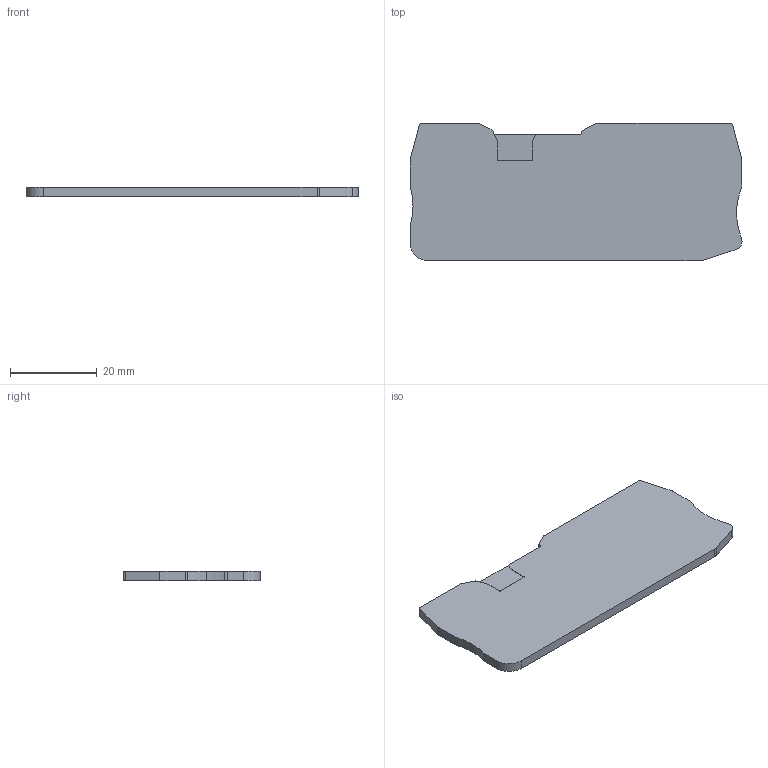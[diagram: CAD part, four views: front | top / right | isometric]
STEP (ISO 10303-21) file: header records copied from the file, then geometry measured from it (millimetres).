
FILE_DESCRIPTION(('SolidDesigner STEP Export'),'2;1');
FILE_NAME('3205190_d_qtc15twin_select.stp','2004-02-10T 7:24:50',(''),(''),'OneSpaceDesigner STEP processor Version: 9.0 (March 2001)for AP203(Solid Model)','CoCreate OneSpaceDesigner: 11.50A 18-Jul-2002(C) CoCreate Software GmbH','');
FILE_SCHEMA(('CONFIG_CONTROL_DESIGN'));
Length unit declared in the file: millimetre
Products named in the file (2): 3205190_d_qtc15twin_select
Assembly tree (1 placements, depth 2):
  3205190_d_qtc15twin_select
    3205190_d_qtc15twin_select
Bounding box: 76.4 x 31.55 x 2.2 mm (x, y, z)
Volume: 5048.5 mm3; surface area: 5072.8 mm2
Topology: 1 solids, 1 shells, 49 faces, 141 edges, 94 vertices
Faces by surface type: plane 27, cylinder 22
Entity records: 2183 total; most frequent: ORIENTED_EDGE 282, CARTESIAN_POINT 276, DIRECTION 267, EDGE_CURVE 141, VECTOR 97, LINE 97, VERTEX_POINT 94, AXIS2_PLACEMENT_3D 85
